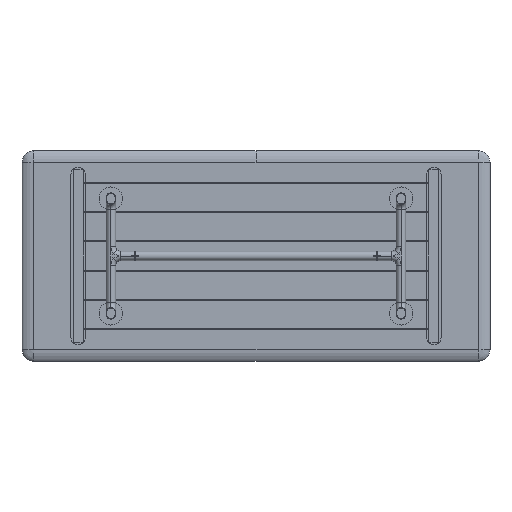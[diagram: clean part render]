
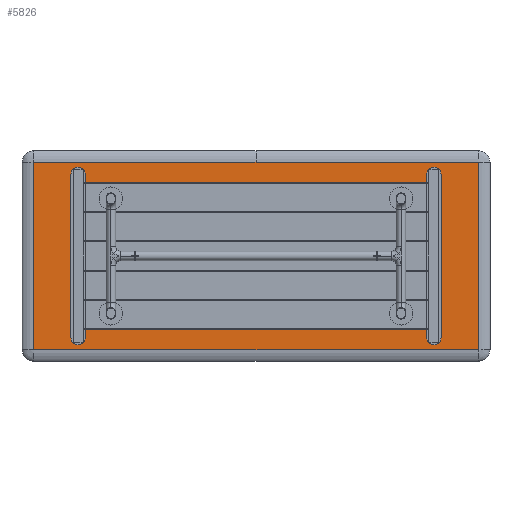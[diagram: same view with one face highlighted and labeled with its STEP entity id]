
A CAD part, front view. The second image highlights one B-rep face of the part: STEP entity #5826.
In plain terms, the highlighted planar face has unit normal (0, -1, 0).
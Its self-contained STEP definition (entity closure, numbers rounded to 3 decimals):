
#54 = CARTESIAN_POINT ( 'NONE',  ( -729., 0., -349. ) ) ;
#76 = DIRECTION ( 'NONE',  ( 1., 0., 0. ) ) ;
#160 = LINE ( 'NONE', #6792, #10862 ) ;
#163 = ORIENTED_EDGE ( 'NONE', *, *, #5890, .T. ) ;
#284 = LINE ( 'NONE', #7653, #303 ) ;
#303 = VECTOR ( 'NONE', #13299, 1000. ) ;
#321 = VERTEX_POINT ( 'NONE', #11222 ) ;
#469 = ORIENTED_EDGE ( 'NONE', *, *, #12950, .T. ) ;
#480 = ORIENTED_EDGE ( 'NONE', *, *, #13988, .T. ) ;
#754 = DIRECTION ( 'NONE',  ( 0., 0., -1. ) ) ;
#1010 = VECTOR ( 'NONE', #6679, 1000. ) ;
#1260 = EDGE_CURVE ( 'NONE', #4536, #7812, #12883, .T. ) ;
#1549 = CARTESIAN_POINT ( 'NONE',  ( 760., 0., 349. ) ) ;
#1767 = ORIENTED_EDGE ( 'NONE', *, *, #1260, .T. ) ;
#1880 = CARTESIAN_POINT ( 'NONE',  ( 950., 0., -400. ) ) ;
#1914 = FACE_OUTER_BOUND ( 'NONE', #12858, .T. ) ;
#2025 = CARTESIAN_POINT ( 'NONE',  ( -760., 0., 349. ) ) ;
#2077 = LINE ( 'NONE', #9776, #3341 ) ;
#2160 = VECTOR ( 'NONE', #13781, 1000. ) ;
#2236 = AXIS2_PLACEMENT_3D ( 'NONE', #4273, #4402, #6676 ) ;
#2377 = EDGE_CURVE ( 'NONE', #8468, #11337, #9833, .T. ) ;
#2576 = CARTESIAN_POINT ( 'NONE',  ( 791., 0., -349. ) ) ;
#2866 = DIRECTION ( 'NONE',  ( 0., 0., 1. ) ) ;
#2926 = CARTESIAN_POINT ( 'NONE',  ( -950., 0., 400. ) ) ;
#2996 = CARTESIAN_POINT ( 'NONE',  ( 950., 0., 400. ) ) ;
#3144 = CARTESIAN_POINT ( 'NONE',  ( -950., 0., 400. ) ) ;
#3341 = VECTOR ( 'NONE', #8714, 1000. ) ;
#3696 = CARTESIAN_POINT ( 'NONE',  ( 950., 0., 400. ) ) ;
#3944 = VECTOR ( 'NONE', #76, 1000. ) ;
#4176 = ORIENTED_EDGE ( 'NONE', *, *, #6144, .T. ) ;
#4203 = DIRECTION ( 'NONE',  ( 1., 0., 0. ) ) ;
#4218 = CARTESIAN_POINT ( 'NONE',  ( 729., 0., 349. ) ) ;
#4273 = CARTESIAN_POINT ( 'NONE',  ( -760., 0., -349. ) ) ;
#4277 = CARTESIAN_POINT ( 'NONE',  ( -791., 0., -349. ) ) ;
#4312 = LINE ( 'NONE', #7660, #11260 ) ;
#4319 = EDGE_CURVE ( 'NONE', #11337, #6992, #160, .T. ) ;
#4402 = DIRECTION ( 'NONE',  ( 0., 1., 0. ) ) ;
#4422 = DIRECTION ( 'NONE',  ( 0., 0., -1. ) ) ;
#4431 = CARTESIAN_POINT ( 'NONE',  ( -950., 0., 400. ) ) ;
#4447 = CARTESIAN_POINT ( 'NONE',  ( 729., 0., 314.5 ) ) ;
#4536 = VERTEX_POINT ( 'NONE', #6358 ) ;
#4569 = EDGE_CURVE ( 'NONE', #11652, #4696, #2077, .T. ) ;
#4633 = LINE ( 'NONE', #4431, #11094 ) ;
#4672 = VERTEX_POINT ( 'NONE', #2576 ) ;
#4696 = VERTEX_POINT ( 'NONE', #7780 ) ;
#4728 = DIRECTION ( 'NONE',  ( 1., 0., 0. ) ) ;
#4840 = EDGE_CURVE ( 'NONE', #14127, #4536, #4633, .T. ) ;
#4968 = ORIENTED_EDGE ( 'NONE', *, *, #2377, .T. ) ;
#4987 = DIRECTION ( 'NONE',  ( 0., 0., 1. ) ) ;
#4995 = ORIENTED_EDGE ( 'NONE', *, *, #8349, .T. ) ;
#5056 = LINE ( 'NONE', #3144, #2160 ) ;
#5374 = LINE ( 'NONE', #6429, #3944 ) ;
#5594 = VERTEX_POINT ( 'NONE', #12419 ) ;
#5826 = ADVANCED_FACE ( 'NONE', ( #1914, #8271 ), #9547, .F. ) ;
#5890 = EDGE_CURVE ( 'NONE', #11228, #321, #11808, .T. ) ;
#6144 = EDGE_CURVE ( 'NONE', #7487, #5594, #7690, .T. ) ;
#6167 = LINE ( 'NONE', #9261, #11685 ) ;
#6358 = CARTESIAN_POINT ( 'NONE',  ( -950., 0., 400. ) ) ;
#6370 = DIRECTION ( 'NONE',  ( -1., 0., 0. ) ) ;
#6429 = CARTESIAN_POINT ( 'NONE',  ( -762.607, 0., -314.5 ) ) ;
#6439 = AXIS2_PLACEMENT_3D ( 'NONE', #2025, #9582, #6370 ) ;
#6630 = ORIENTED_EDGE ( 'NONE', *, *, #9890, .T. ) ;
#6676 = DIRECTION ( 'NONE',  ( -1., 0., 0. ) ) ;
#6679 = DIRECTION ( 'NONE',  ( 0., 0., 1. ) ) ;
#6692 = VERTEX_POINT ( 'NONE', #1880 ) ;
#6792 = CARTESIAN_POINT ( 'NONE',  ( -762.607, 0., 314.5 ) ) ;
#6875 = VECTOR ( 'NONE', #4422, 1000. ) ;
#6992 = VERTEX_POINT ( 'NONE', #4447 ) ;
#7210 = CARTESIAN_POINT ( 'NONE',  ( -950., 0., -400. ) ) ;
#7354 = VERTEX_POINT ( 'NONE', #9498 ) ;
#7479 = LINE ( 'NONE', #2996, #9707 ) ;
#7487 = VERTEX_POINT ( 'NONE', #12788 ) ;
#7521 = CARTESIAN_POINT ( 'NONE',  ( -950., 0., 400. ) ) ;
#7524 = CARTESIAN_POINT ( 'NONE',  ( 0., 0., 400. ) ) ;
#7619 = LINE ( 'NONE', #4277, #1010 ) ;
#7653 = CARTESIAN_POINT ( 'NONE',  ( -729., 0., -349. ) ) ;
#7660 = CARTESIAN_POINT ( 'NONE',  ( -950., 0., -400. ) ) ;
#7690 = CIRCLE ( 'NONE', #9509, 31. ) ;
#7780 = CARTESIAN_POINT ( 'NONE',  ( 729., 0., -314.5 ) ) ;
#7812 = VERTEX_POINT ( 'NONE', #7210 ) ;
#7814 = CARTESIAN_POINT ( 'NONE',  ( 729., 0., -349. ) ) ;
#8271 = FACE_BOUND ( 'NONE', #10904, .T. ) ;
#8290 = CARTESIAN_POINT ( 'NONE',  ( -729., 0., 314.5 ) ) ;
#8349 = EDGE_CURVE ( 'NONE', #10742, #11228, #284, .T. ) ;
#8459 = DIRECTION ( 'NONE',  ( 0., 0., -1. ) ) ;
#8468 = VERTEX_POINT ( 'NONE', #13584 ) ;
#8714 = DIRECTION ( 'NONE',  ( 0., 0., 1. ) ) ;
#8727 = VERTEX_POINT ( 'NONE', #3696 ) ;
#8919 = EDGE_CURVE ( 'NONE', #5594, #4672, #6167, .T. ) ;
#9001 = DIRECTION ( 'NONE',  ( -1., 0., 0. ) ) ;
#9261 = CARTESIAN_POINT ( 'NONE',  ( 791., 0., 349. ) ) ;
#9498 = CARTESIAN_POINT ( 'NONE',  ( -791., 0., 349. ) ) ;
#9509 = AXIS2_PLACEMENT_3D ( 'NONE', #1549, #12331, #13340 ) ;
#9547 = PLANE ( 'NONE',  #11341 ) ;
#9582 = DIRECTION ( 'NONE',  ( 0., 1., 0. ) ) ;
#9707 = VECTOR ( 'NONE', #2866, 1000. ) ;
#9776 = CARTESIAN_POINT ( 'NONE',  ( 729., 0., 349. ) ) ;
#9833 = LINE ( 'NONE', #54, #6875 ) ;
#9890 = EDGE_CURVE ( 'NONE', #6992, #7487, #12787, .T. ) ;
#10056 = VECTOR ( 'NONE', #8459, 1000. ) ;
#10436 = EDGE_CURVE ( 'NONE', #8727, #14127, #5056, .T. ) ;
#10495 = EDGE_CURVE ( 'NONE', #321, #7354, #7619, .T. ) ;
#10533 = ORIENTED_EDGE ( 'NONE', *, *, #4319, .T. ) ;
#10742 = VERTEX_POINT ( 'NONE', #11332 ) ;
#10783 = CIRCLE ( 'NONE', #6439, 31. ) ;
#10834 = CARTESIAN_POINT ( 'NONE',  ( 760., 0., -349. ) ) ;
#10862 = VECTOR ( 'NONE', #4728, 1000. ) ;
#10904 = EDGE_LOOP ( 'NONE', ( #4995, #163, #12019, #11773, #4968, #10533, #6630, #4176, #11415, #469, #11690, #12537 ) ) ;
#10974 = DIRECTION ( 'NONE',  ( 0., 1., 0. ) ) ;
#11050 = EDGE_CURVE ( 'NONE', #10742, #4696, #5374, .T. ) ;
#11094 = VECTOR ( 'NONE', #9001, 1000. ) ;
#11160 = ORIENTED_EDGE ( 'NONE', *, *, #12140, .T. ) ;
#11222 = CARTESIAN_POINT ( 'NONE',  ( -791., 0., -349. ) ) ;
#11228 = VERTEX_POINT ( 'NONE', #13512 ) ;
#11260 = VECTOR ( 'NONE', #12022, 1000. ) ;
#11332 = CARTESIAN_POINT ( 'NONE',  ( -729., 0., -314.5 ) ) ;
#11337 = VERTEX_POINT ( 'NONE', #8290 ) ;
#11341 = AXIS2_PLACEMENT_3D ( 'NONE', #2926, #12634, #4987 ) ;
#11415 = ORIENTED_EDGE ( 'NONE', *, *, #8919, .T. ) ;
#11459 = ORIENTED_EDGE ( 'NONE', *, *, #4840, .T. ) ;
#11652 = VERTEX_POINT ( 'NONE', #7814 ) ;
#11685 = VECTOR ( 'NONE', #754, 1000. ) ;
#11690 = ORIENTED_EDGE ( 'NONE', *, *, #4569, .T. ) ;
#11773 = ORIENTED_EDGE ( 'NONE', *, *, #12027, .T. ) ;
#11808 = CIRCLE ( 'NONE', #2236, 31. ) ;
#11963 = AXIS2_PLACEMENT_3D ( 'NONE', #10834, #10974, #4203 ) ;
#12019 = ORIENTED_EDGE ( 'NONE', *, *, #10495, .T. ) ;
#12022 = DIRECTION ( 'NONE',  ( 1., 0., 0. ) ) ;
#12027 = EDGE_CURVE ( 'NONE', #7354, #8468, #10783, .T. ) ;
#12140 = EDGE_CURVE ( 'NONE', #7812, #6692, #4312, .T. ) ;
#12214 = VECTOR ( 'NONE', #13934, 1000. ) ;
#12331 = DIRECTION ( 'NONE',  ( 0., 1., 0. ) ) ;
#12419 = CARTESIAN_POINT ( 'NONE',  ( 791., 0., 349. ) ) ;
#12537 = ORIENTED_EDGE ( 'NONE', *, *, #11050, .F. ) ;
#12634 = DIRECTION ( 'NONE',  ( 0., 1., 0. ) ) ;
#12787 = LINE ( 'NONE', #4218, #12214 ) ;
#12788 = CARTESIAN_POINT ( 'NONE',  ( 729., 0., 349. ) ) ;
#12858 = EDGE_LOOP ( 'NONE', ( #1767, #11160, #480, #13481, #11459 ) ) ;
#12883 = LINE ( 'NONE', #7521, #10056 ) ;
#12950 = EDGE_CURVE ( 'NONE', #4672, #11652, #13559, .T. ) ;
#13299 = DIRECTION ( 'NONE',  ( 0., 0., -1. ) ) ;
#13340 = DIRECTION ( 'NONE',  ( 1., 0., 0. ) ) ;
#13481 = ORIENTED_EDGE ( 'NONE', *, *, #10436, .T. ) ;
#13512 = CARTESIAN_POINT ( 'NONE',  ( -729., 0., -349. ) ) ;
#13559 = CIRCLE ( 'NONE', #11963, 31. ) ;
#13584 = CARTESIAN_POINT ( 'NONE',  ( -729., 0., 349. ) ) ;
#13781 = DIRECTION ( 'NONE',  ( -1., 0., 0. ) ) ;
#13934 = DIRECTION ( 'NONE',  ( 0., 0., 1. ) ) ;
#13988 = EDGE_CURVE ( 'NONE', #6692, #8727, #7479, .T. ) ;
#14127 = VERTEX_POINT ( 'NONE', #7524 ) ;
